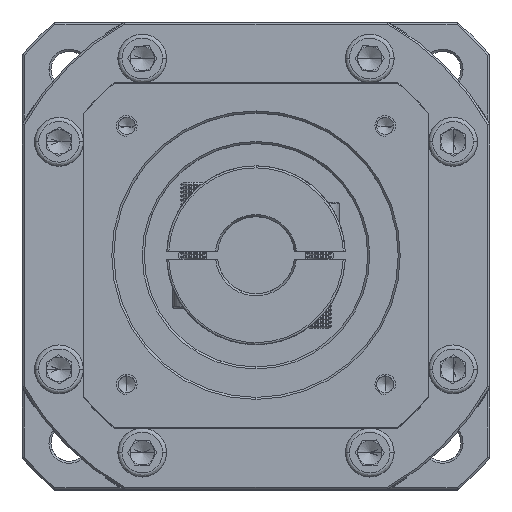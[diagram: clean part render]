
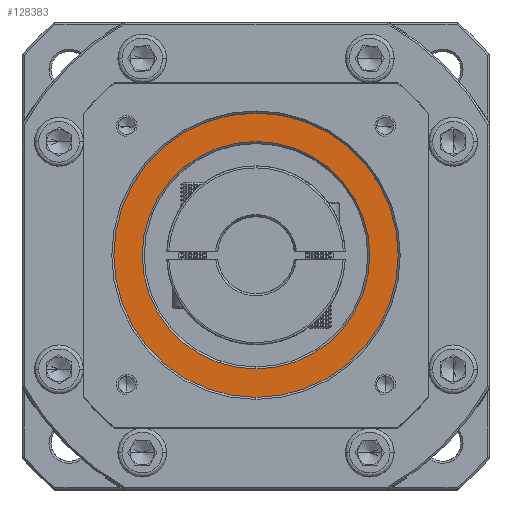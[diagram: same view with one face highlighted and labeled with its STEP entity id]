
A CAD part, top view. The second image highlights one B-rep face of the part: STEP entity #128383.
In plain terms, the highlighted planar face has unit normal (0, 0, 1).
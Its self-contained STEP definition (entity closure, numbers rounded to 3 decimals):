
#1591 = AXIS2_PLACEMENT_3D ( 'NONE', #39378, #60607, #134647 ) ;
#11502 = AXIS2_PLACEMENT_3D ( 'NONE', #134897, #71468, #125555 ) ;
#13088 = VERTEX_POINT ( 'NONE', #104423 ) ;
#18035 = VERTEX_POINT ( 'NONE', #46390 ) ;
#18186 = CIRCLE ( 'NONE', #59347, 35. ) ;
#30874 = CIRCLE ( 'NONE', #11502, 35. ) ;
#32995 = CARTESIAN_POINT ( 'NONE',  ( 81.972, 81.609, -28.735 ) ) ;
#33402 = DIRECTION ( 'NONE',  ( 0., 0., 1. ) ) ;
#35388 = VERTEX_POINT ( 'NONE', #32995 ) ;
#38094 = DIRECTION ( 'NONE',  ( 0., 0., -1. ) ) ;
#39378 = CARTESIAN_POINT ( 'NONE',  ( 81.972, 46.609, -28.735 ) ) ;
#44905 = EDGE_CURVE ( 'NONE', #65432, #35388, #18186, .T. ) ;
#46390 = CARTESIAN_POINT ( 'NONE',  ( 81.972, 18.609, -28.735 ) ) ;
#48743 = CARTESIAN_POINT ( 'NONE',  ( 81.972, 46.609, -28.735 ) ) ;
#54059 = DIRECTION ( 'NONE',  ( 0., 1., 0. ) ) ;
#59347 = AXIS2_PLACEMENT_3D ( 'NONE', #117614, #33402, #107429 ) ;
#59729 = ORIENTED_EDGE ( 'NONE', *, *, #87211, .T. ) ;
#60607 = DIRECTION ( 'NONE',  ( 0., 0., -1. ) ) ;
#65432 = VERTEX_POINT ( 'NONE', #67235 ) ;
#67235 = CARTESIAN_POINT ( 'NONE',  ( 81.972, 11.609, -28.735 ) ) ;
#68240 = AXIS2_PLACEMENT_3D ( 'NONE', #116989, #85038, #54059 ) ;
#70229 = EDGE_LOOP ( 'NONE', ( #75649, #131680 ) ) ;
#71468 = DIRECTION ( 'NONE',  ( 0., 0., 1. ) ) ;
#72142 = EDGE_CURVE ( 'NONE', #35388, #65432, #30874, .T. ) ;
#75649 = ORIENTED_EDGE ( 'NONE', *, *, #72142, .T. ) ;
#79646 = DIRECTION ( 'NONE',  ( 0., 1., 0. ) ) ;
#85038 = DIRECTION ( 'NONE',  ( 0., 0., 1. ) ) ;
#87211 = EDGE_CURVE ( 'NONE', #18035, #13088, #114842, .T. ) ;
#91015 = EDGE_CURVE ( 'NONE', #13088, #18035, #96478, .T. ) ;
#96478 = CIRCLE ( 'NONE', #1591, 28. ) ;
#100307 = AXIS2_PLACEMENT_3D ( 'NONE', #48743, #38094, #79646 ) ;
#104423 = CARTESIAN_POINT ( 'NONE',  ( 81.972, 74.609, -28.735 ) ) ;
#106461 = FACE_OUTER_BOUND ( 'NONE', #70229, .T. ) ;
#107429 = DIRECTION ( 'NONE',  ( 0., 1., 0. ) ) ;
#114842 = CIRCLE ( 'NONE', #100307, 28. ) ;
#115997 = EDGE_LOOP ( 'NONE', ( #116710, #59729 ) ) ;
#116710 = ORIENTED_EDGE ( 'NONE', *, *, #91015, .T. ) ;
#116989 = CARTESIAN_POINT ( 'NONE',  ( 81.972, 46.609, -28.735 ) ) ;
#117436 = PLANE ( 'NONE',  #68240 ) ;
#117614 = CARTESIAN_POINT ( 'NONE',  ( 81.972, 46.609, -28.735 ) ) ;
#125555 = DIRECTION ( 'NONE',  ( 0., 1., 0. ) ) ;
#127884 = FACE_BOUND ( 'NONE', #115997, .T. ) ;
#128383 = ADVANCED_FACE ( 'NONE', ( #106461, #127884 ), #117436, .T. ) ;
#131680 = ORIENTED_EDGE ( 'NONE', *, *, #44905, .T. ) ;
#134647 = DIRECTION ( 'NONE',  ( 0., 1., 0. ) ) ;
#134897 = CARTESIAN_POINT ( 'NONE',  ( 81.972, 46.609, -28.735 ) ) ;
